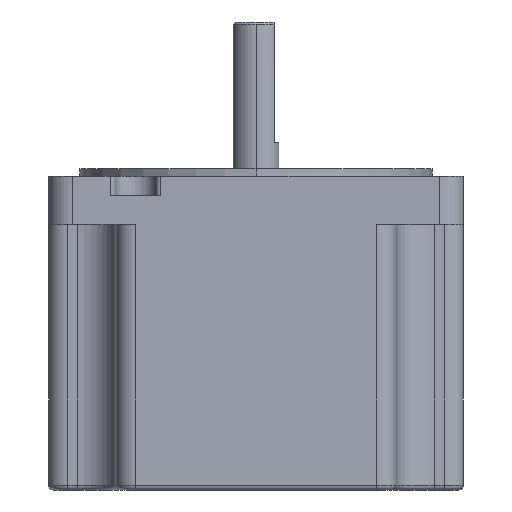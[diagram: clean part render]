
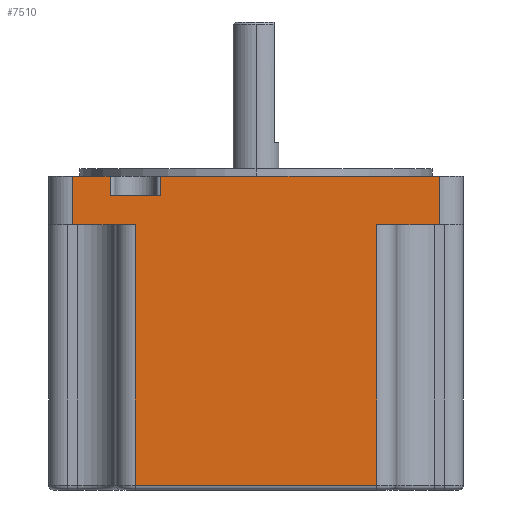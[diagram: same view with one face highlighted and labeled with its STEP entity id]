
A CAD part, left-side view. The second image highlights one B-rep face of the part: STEP entity #7510.
In plain terms, the highlighted planar face has unit normal (-1, 0, 0).
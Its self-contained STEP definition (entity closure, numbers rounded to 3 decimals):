
#150=DIRECTION('',(0.,0.,-1.));
#151=VECTOR('',#150,54.);
#152=CARTESIAN_POINT('',(0.,18.,50.));
#153=LINE('',#152,#151);
#158=DIRECTION('',(0.,1.,0.));
#159=VECTOR('',#158,7.75);
#160=CARTESIAN_POINT('',(0.,73.25,60.));
#161=LINE('',#160,#159);
#162=DIRECTION('',(0.,1.,0.));
#163=VECTOR('',#162,57.75);
#164=CARTESIAN_POINT('',(0.,5.,60.));
#165=LINE('',#164,#163);
#170=DIRECTION('',(0.,0.,1.));
#171=VECTOR('',#170,54.);
#172=CARTESIAN_POINT('',(0.,68.,-4.));
#173=LINE('',#172,#171);
#588=DIRECTION('',(0.,0.,-1.));
#589=VECTOR('',#588,10.);
#590=CARTESIAN_POINT('',(0.,5.,60.));
#591=LINE('',#590,#589);
#611=DIRECTION('',(0.,1.,0.));
#612=VECTOR('',#611,13.);
#613=CARTESIAN_POINT('',(0.,5.,50.));
#614=LINE('',#613,#612);
#638=DIRECTION('',(0.,0.,1.));
#639=VECTOR('',#638,4.);
#640=CARTESIAN_POINT('',(0.,62.75,56.));
#641=LINE('',#640,#639);
#646=DIRECTION('',(0.,-1.,0.));
#647=VECTOR('',#646,10.5);
#648=CARTESIAN_POINT('',(0.,73.25,56.));
#649=LINE('',#648,#647);
#675=DIRECTION('',(0.,0.,-1.));
#676=VECTOR('',#675,4.);
#677=CARTESIAN_POINT('',(0.,73.25,60.));
#678=LINE('',#677,#676);
#717=DIRECTION('',(0.,0.,1.));
#718=VECTOR('',#717,10.);
#719=CARTESIAN_POINT('',(0.,81.,50.));
#720=LINE('',#719,#718);
#725=DIRECTION('',(0.,1.,0.));
#726=VECTOR('',#725,13.);
#727=CARTESIAN_POINT('',(0.,68.,50.));
#728=LINE('',#727,#726);
#1310=DIRECTION('',(0.,1.,0.));
#1311=VECTOR('',#1310,50.);
#1312=CARTESIAN_POINT('',(0.,18.,-4.));
#1313=LINE('',#1312,#1311);
#6167=CARTESIAN_POINT('',(0.,73.25,56.));
#6168=CARTESIAN_POINT('',(0.,62.75,56.));
#6169=VERTEX_POINT('',#6167);
#6170=VERTEX_POINT('',#6168);
#6247=CARTESIAN_POINT('',(0.,81.,60.));
#6248=VERTEX_POINT('',#6247);
#6249=CARTESIAN_POINT('',(0.,73.25,60.));
#6250=VERTEX_POINT('',#6249);
#6259=CARTESIAN_POINT('',(0.,62.75,60.));
#6260=VERTEX_POINT('',#6259);
#6261=CARTESIAN_POINT('',(0.,5.,60.));
#6262=VERTEX_POINT('',#6261);
#6295=CARTESIAN_POINT('',(0.,68.,50.));
#6296=CARTESIAN_POINT('',(0.,81.,50.));
#6297=VERTEX_POINT('',#6295);
#6298=VERTEX_POINT('',#6296);
#6397=CARTESIAN_POINT('',(0.,68.,-4.));
#6398=VERTEX_POINT('',#6397);
#6399=CARTESIAN_POINT('',(0.,18.,-4.));
#6400=VERTEX_POINT('',#6399);
#6401=CARTESIAN_POINT('',(0.,18.,50.));
#6402=VERTEX_POINT('',#6401);
#6403=CARTESIAN_POINT('',(0.,5.,50.));
#6404=VERTEX_POINT('',#6403);
#7480=CARTESIAN_POINT('',(0.,86.,60.));
#7481=DIRECTION('',(1.,0.,0.));
#7482=DIRECTION('',(0.,1.,0.));
#7483=AXIS2_PLACEMENT_3D('',#7480,#7481,#7482);
#7484=PLANE('',#7483);
#7486=ORIENTED_EDGE('',*,*,#7485,.T.);
#7488=ORIENTED_EDGE('',*,*,#7487,.T.);
#7490=ORIENTED_EDGE('',*,*,#7489,.T.);
#7492=ORIENTED_EDGE('',*,*,#7491,.F.);
#7494=ORIENTED_EDGE('',*,*,#7493,.T.);
#7496=ORIENTED_EDGE('',*,*,#7495,.T.);
#7498=ORIENTED_EDGE('',*,*,#7497,.T.);
#7500=ORIENTED_EDGE('',*,*,#7499,.F.);
#7502=ORIENTED_EDGE('',*,*,#7501,.T.);
#7504=ORIENTED_EDGE('',*,*,#7503,.T.);
#7505=ORIENTED_EDGE('',*,*,#7470,.T.);
#7507=ORIENTED_EDGE('',*,*,#7506,.T.);
#7508=EDGE_LOOP('',(#7486,#7488,#7490,#7492,#7494,#7496,#7498,#7500,#7502,#7504,
#7505,#7507));
#7509=FACE_OUTER_BOUND('',#7508,.F.);
#7510=ADVANCED_FACE('',(#7509),#7484,.F.);
#7470=EDGE_CURVE('',#6402,#6400,#153,.T.);
#7485=EDGE_CURVE('',#6398,#6297,#173,.T.);
#7487=EDGE_CURVE('',#6297,#6298,#728,.T.);
#7489=EDGE_CURVE('',#6298,#6248,#720,.T.);
#7491=EDGE_CURVE('',#6250,#6248,#161,.T.);
#7493=EDGE_CURVE('',#6250,#6169,#678,.T.);
#7495=EDGE_CURVE('',#6169,#6170,#649,.T.);
#7497=EDGE_CURVE('',#6170,#6260,#641,.T.);
#7499=EDGE_CURVE('',#6262,#6260,#165,.T.);
#7501=EDGE_CURVE('',#6262,#6404,#591,.T.);
#7503=EDGE_CURVE('',#6404,#6402,#614,.T.);
#7506=EDGE_CURVE('',#6400,#6398,#1313,.T.);
